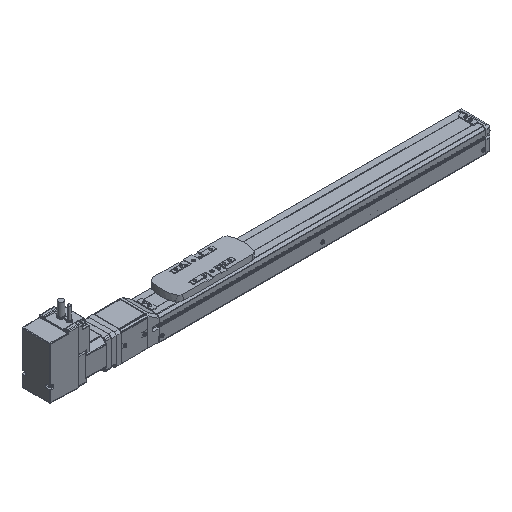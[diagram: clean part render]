
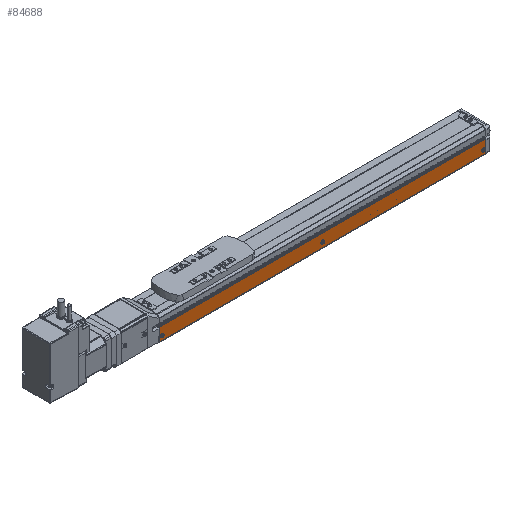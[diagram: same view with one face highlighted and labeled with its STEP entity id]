
A CAD part, isometric view. The second image highlights one B-rep face of the part: STEP entity #84688.
In plain terms, the highlighted planar face has unit normal (0, -1, 0) as drawn and (0, 0, 1) by its records, which use the part's own axes.
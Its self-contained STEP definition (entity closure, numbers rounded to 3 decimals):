
#68324 = PLANE('',#68325);
#68325 = AXIS2_PLACEMENT_3D('',#68326,#68327,#68328);
#68326 = CARTESIAN_POINT('',(-476.5,1.25,21.3));
#68327 = DIRECTION('',(1.,0.,0.));
#68328 = DIRECTION('',(0.,0.,-1.));
#68723 = PLANE('',#68724);
#68724 = AXIS2_PLACEMENT_3D('',#68725,#68726,#68727);
#68725 = CARTESIAN_POINT('',(-9.5,1.25,21.3));
#68726 = DIRECTION('',(1.,0.,0.));
#68727 = DIRECTION('',(0.,0.,-1.));
#84577 = CYLINDRICAL_SURFACE('',#84578,1.);
#84578 = AXIS2_PLACEMENT_3D('',#84579,#84580,#84581);
#84579 = CARTESIAN_POINT('',(-476.5,-20.734,20.5));
#84580 = DIRECTION('',(1.,0.,0.));
#84581 = DIRECTION('',(0.,0.,-1.));
#84615 = VERTEX_POINT('',#84616);
#84616 = CARTESIAN_POINT('',(-9.5,-20.734,21.5));
#84638 = EDGE_CURVE('',#84639,#84615,#84641,.T.);
#84639 = VERTEX_POINT('',#84640);
#84640 = CARTESIAN_POINT('',(-476.5,-20.734,21.5));
#84641 = SURFACE_CURVE('',#84642,(#84646,#84653),.PCURVE_S1.);
#84642 = LINE('',#84643,#84644);
#84643 = CARTESIAN_POINT('',(-476.5,-20.734,21.5));
#84644 = VECTOR('',#84645,1.);
#84645 = DIRECTION('',(1.,0.,0.));
#84646 = PCURVE('',#84577,#84647);
#84647 = DEFINITIONAL_REPRESENTATION('',(#84648),#84652);
#84648 = LINE('',#84649,#84650);
#84649 = CARTESIAN_POINT('',(3.142,0.));
#84650 = VECTOR('',#84651,1.);
#84651 = DIRECTION('',(0.,1.));
#84652 = ( GEOMETRIC_REPRESENTATION_CONTEXT(2) 
PARAMETRIC_REPRESENTATION_CONTEXT() REPRESENTATION_CONTEXT('2D SPACE',''
  ) );
#84653 = PCURVE('',#84654,#84659);
#84654 = PLANE('',#84655);
#84655 = AXIS2_PLACEMENT_3D('',#84656,#84657,#84658);
#84656 = CARTESIAN_POINT('',(-476.5,-2.65,21.5));
#84657 = DIRECTION('',(0.,0.,1.));
#84658 = DIRECTION('',(1.,0.,-0.));
#84659 = DEFINITIONAL_REPRESENTATION('',(#84660),#84664);
#84660 = LINE('',#84661,#84662);
#84661 = CARTESIAN_POINT('',(0.,-18.084));
#84662 = VECTOR('',#84663,1.);
#84663 = DIRECTION('',(1.,0.));
#84664 = ( GEOMETRIC_REPRESENTATION_CONTEXT(2) 
PARAMETRIC_REPRESENTATION_CONTEXT() REPRESENTATION_CONTEXT('2D SPACE',''
  ) );
#84688 = ADVANCED_FACE('',(#84689,#84724,#84755,#84786),#84654,.T.);
#84689 = FACE_BOUND('',#84690,.T.);
#84690 = EDGE_LOOP('',(#84691));
#84691 = ORIENTED_EDGE('',*,*,#84692,.T.);
#84692 = EDGE_CURVE('',#84693,#84693,#84695,.T.);
#84693 = VERTEX_POINT('',#84694);
#84694 = CARTESIAN_POINT('',(-245.25,-13.5,21.5));
#84695 = SURFACE_CURVE('',#84696,(#84701,#84712),.PCURVE_S1.);
#84696 = CIRCLE('',#84697,2.25);
#84697 = AXIS2_PLACEMENT_3D('',#84698,#84699,#84700);
#84698 = CARTESIAN_POINT('',(-243.,-13.5,21.5));
#84699 = DIRECTION('',(0.,0.,-1.));
#84700 = DIRECTION('',(-1.,0.,0.));
#84701 = PCURVE('',#84654,#84702);
#84702 = DEFINITIONAL_REPRESENTATION('',(#84703),#84711);
#84703 = ( BOUNDED_CURVE() B_SPLINE_CURVE(2,(#84704,#84705,#84706,#84707
    ,#84708,#84709,#84710),.UNSPECIFIED.,.T.,.F.) 
B_SPLINE_CURVE_WITH_KNOTS((1,2,2,2,2,1),(-2.094,0.,
    2.094,4.189,6.283,8.378),
.UNSPECIFIED.) CURVE() GEOMETRIC_REPRESENTATION_ITEM() 
RATIONAL_B_SPLINE_CURVE((1.,0.5,1.,0.5,1.,0.5,1.)) REPRESENTATION_ITEM(
  '') );
#84704 = CARTESIAN_POINT('',(231.25,-10.85));
#84705 = CARTESIAN_POINT('',(231.25,-6.953));
#84706 = CARTESIAN_POINT('',(234.625,-8.901));
#84707 = CARTESIAN_POINT('',(238.,-10.85));
#84708 = CARTESIAN_POINT('',(234.625,-12.799));
#84709 = CARTESIAN_POINT('',(231.25,-14.747));
#84710 = CARTESIAN_POINT('',(231.25,-10.85));
#84711 = ( GEOMETRIC_REPRESENTATION_CONTEXT(2) 
PARAMETRIC_REPRESENTATION_CONTEXT() REPRESENTATION_CONTEXT('2D SPACE',''
  ) );
#84712 = PCURVE('',#84713,#84718);
#84713 = CONICAL_SURFACE('',#84714,2.181,0.087);
#84714 = AXIS2_PLACEMENT_3D('',#84715,#84716,#84717);
#84715 = CARTESIAN_POINT('',(-243.,-13.5,22.289));
#84716 = DIRECTION('',(0.,0.,-1.));
#84717 = DIRECTION('',(-1.,0.,0.));
#84718 = DEFINITIONAL_REPRESENTATION('',(#84719),#84723);
#84719 = LINE('',#84720,#84721);
#84720 = CARTESIAN_POINT('',(0.,0.789));
#84721 = VECTOR('',#84722,1.);
#84722 = DIRECTION('',(1.,0.));
#84723 = ( GEOMETRIC_REPRESENTATION_CONTEXT(2) 
PARAMETRIC_REPRESENTATION_CONTEXT() REPRESENTATION_CONTEXT('2D SPACE',''
  ) );
#84724 = FACE_BOUND('',#84725,.T.);
#84725 = EDGE_LOOP('',(#84726));
#84726 = ORIENTED_EDGE('',*,*,#84727,.F.);
#84727 = EDGE_CURVE('',#84728,#84728,#84730,.T.);
#84728 = VERTEX_POINT('',#84729);
#84729 = CARTESIAN_POINT('',(-470.71,-14.5,21.5));
#84730 = SURFACE_CURVE('',#84731,(#84736,#84743),.PCURVE_S1.);
#84731 = CIRCLE('',#84732,2.29);
#84732 = AXIS2_PLACEMENT_3D('',#84733,#84734,#84735);
#84733 = CARTESIAN_POINT('',(-473.,-14.5,21.5));
#84734 = DIRECTION('',(0.,0.,1.));
#84735 = DIRECTION('',(1.,0.,-0.));
#84736 = PCURVE('',#84654,#84737);
#84737 = DEFINITIONAL_REPRESENTATION('',(#84738),#84742);
#84738 = CIRCLE('',#84739,2.29);
#84739 = AXIS2_PLACEMENT_2D('',#84740,#84741);
#84740 = CARTESIAN_POINT('',(3.5,-11.85));
#84741 = DIRECTION('',(1.,0.));
#84742 = ( GEOMETRIC_REPRESENTATION_CONTEXT(2) 
PARAMETRIC_REPRESENTATION_CONTEXT() REPRESENTATION_CONTEXT('2D SPACE',''
  ) );
#84743 = PCURVE('',#84744,#84749);
#84744 = CONICAL_SURFACE('',#84745,2.29,0.087);
#84745 = AXIS2_PLACEMENT_3D('',#84746,#84747,#84748);
#84746 = CARTESIAN_POINT('',(-473.,-14.5,21.5));
#84747 = DIRECTION('',(0.,0.,-1.));
#84748 = DIRECTION('',(-1.,0.,0.));
#84749 = DEFINITIONAL_REPRESENTATION('',(#84750),#84754);
#84750 = LINE('',#84751,#84752);
#84751 = CARTESIAN_POINT('',(9.425,0.));
#84752 = VECTOR('',#84753,1.);
#84753 = DIRECTION('',(-1.,0.));
#84754 = ( GEOMETRIC_REPRESENTATION_CONTEXT(2) 
PARAMETRIC_REPRESENTATION_CONTEXT() REPRESENTATION_CONTEXT('2D SPACE',''
  ) );
#84755 = FACE_BOUND('',#84756,.T.);
#84756 = EDGE_LOOP('',(#84757));
#84757 = ORIENTED_EDGE('',*,*,#84758,.F.);
#84758 = EDGE_CURVE('',#84759,#84759,#84761,.T.);
#84759 = VERTEX_POINT('',#84760);
#84760 = CARTESIAN_POINT('',(-10.71,-14.5,21.5));
#84761 = SURFACE_CURVE('',#84762,(#84767,#84774),.PCURVE_S1.);
#84762 = CIRCLE('',#84763,2.29);
#84763 = AXIS2_PLACEMENT_3D('',#84764,#84765,#84766);
#84764 = CARTESIAN_POINT('',(-13.,-14.5,21.5));
#84765 = DIRECTION('',(0.,0.,1.));
#84766 = DIRECTION('',(1.,0.,-0.));
#84767 = PCURVE('',#84654,#84768);
#84768 = DEFINITIONAL_REPRESENTATION('',(#84769),#84773);
#84769 = CIRCLE('',#84770,2.29);
#84770 = AXIS2_PLACEMENT_2D('',#84771,#84772);
#84771 = CARTESIAN_POINT('',(463.5,-11.85));
#84772 = DIRECTION('',(1.,0.));
#84773 = ( GEOMETRIC_REPRESENTATION_CONTEXT(2) 
PARAMETRIC_REPRESENTATION_CONTEXT() REPRESENTATION_CONTEXT('2D SPACE',''
  ) );
#84774 = PCURVE('',#84775,#84780);
#84775 = CONICAL_SURFACE('',#84776,2.29,0.087);
#84776 = AXIS2_PLACEMENT_3D('',#84777,#84778,#84779);
#84777 = CARTESIAN_POINT('',(-13.,-14.5,21.5));
#84778 = DIRECTION('',(0.,0.,-1.));
#84779 = DIRECTION('',(-1.,0.,0.));
#84780 = DEFINITIONAL_REPRESENTATION('',(#84781),#84785);
#84781 = LINE('',#84782,#84783);
#84782 = CARTESIAN_POINT('',(9.425,0.));
#84783 = VECTOR('',#84784,1.);
#84784 = DIRECTION('',(-1.,0.));
#84785 = ( GEOMETRIC_REPRESENTATION_CONTEXT(2) 
PARAMETRIC_REPRESENTATION_CONTEXT() REPRESENTATION_CONTEXT('2D SPACE',''
  ) );
#84786 = FACE_BOUND('',#84787,.T.);
#84787 = EDGE_LOOP('',(#84788,#84811,#84839,#84860));
#84788 = ORIENTED_EDGE('',*,*,#84789,.F.);
#84789 = EDGE_CURVE('',#84790,#84615,#84792,.T.);
#84790 = VERTEX_POINT('',#84791);
#84791 = CARTESIAN_POINT('',(-9.5,-2.65,21.5));
#84792 = SURFACE_CURVE('',#84793,(#84797,#84804),.PCURVE_S1.);
#84793 = LINE('',#84794,#84795);
#84794 = CARTESIAN_POINT('',(-9.5,-2.65,21.5));
#84795 = VECTOR('',#84796,1.);
#84796 = DIRECTION('',(0.,-1.,0.));
#84797 = PCURVE('',#84654,#84798);
#84798 = DEFINITIONAL_REPRESENTATION('',(#84799),#84803);
#84799 = LINE('',#84800,#84801);
#84800 = CARTESIAN_POINT('',(467.,0.));
#84801 = VECTOR('',#84802,1.);
#84802 = DIRECTION('',(0.,-1.));
#84803 = ( GEOMETRIC_REPRESENTATION_CONTEXT(2) 
PARAMETRIC_REPRESENTATION_CONTEXT() REPRESENTATION_CONTEXT('2D SPACE',''
  ) );
#84804 = PCURVE('',#68723,#84805);
#84805 = DEFINITIONAL_REPRESENTATION('',(#84806),#84810);
#84806 = LINE('',#84807,#84808);
#84807 = CARTESIAN_POINT('',(-0.2,-3.9));
#84808 = VECTOR('',#84809,1.);
#84809 = DIRECTION('',(0.,-1.));
#84810 = ( GEOMETRIC_REPRESENTATION_CONTEXT(2) 
PARAMETRIC_REPRESENTATION_CONTEXT() REPRESENTATION_CONTEXT('2D SPACE',''
  ) );
#84811 = ORIENTED_EDGE('',*,*,#84812,.F.);
#84812 = EDGE_CURVE('',#84813,#84790,#84815,.T.);
#84813 = VERTEX_POINT('',#84814);
#84814 = CARTESIAN_POINT('',(-476.5,-2.65,21.5));
#84815 = SURFACE_CURVE('',#84816,(#84820,#84827),.PCURVE_S1.);
#84816 = LINE('',#84817,#84818);
#84817 = CARTESIAN_POINT('',(-476.5,-2.65,21.5));
#84818 = VECTOR('',#84819,1.);
#84819 = DIRECTION('',(1.,0.,0.));
#84820 = PCURVE('',#84654,#84821);
#84821 = DEFINITIONAL_REPRESENTATION('',(#84822),#84826);
#84822 = LINE('',#84823,#84824);
#84823 = CARTESIAN_POINT('',(0.,0.));
#84824 = VECTOR('',#84825,1.);
#84825 = DIRECTION('',(1.,0.));
#84826 = ( GEOMETRIC_REPRESENTATION_CONTEXT(2) 
PARAMETRIC_REPRESENTATION_CONTEXT() REPRESENTATION_CONTEXT('2D SPACE',''
  ) );
#84827 = PCURVE('',#84828,#84833);
#84828 = CYLINDRICAL_SURFACE('',#84829,0.2);
#84829 = AXIS2_PLACEMENT_3D('',#84830,#84831,#84832);
#84830 = CARTESIAN_POINT('',(-476.5,-2.65,21.3));
#84831 = DIRECTION('',(1.,0.,0.));
#84832 = DIRECTION('',(0.,0.,-1.));
#84833 = DEFINITIONAL_REPRESENTATION('',(#84834),#84838);
#84834 = LINE('',#84835,#84836);
#84835 = CARTESIAN_POINT('',(3.142,0.));
#84836 = VECTOR('',#84837,1.);
#84837 = DIRECTION('',(0.,1.));
#84838 = ( GEOMETRIC_REPRESENTATION_CONTEXT(2) 
PARAMETRIC_REPRESENTATION_CONTEXT() REPRESENTATION_CONTEXT('2D SPACE',''
  ) );
#84839 = ORIENTED_EDGE('',*,*,#84840,.T.);
#84840 = EDGE_CURVE('',#84813,#84639,#84841,.T.);
#84841 = SURFACE_CURVE('',#84842,(#84846,#84853),.PCURVE_S1.);
#84842 = LINE('',#84843,#84844);
#84843 = CARTESIAN_POINT('',(-476.5,-2.65,21.5));
#84844 = VECTOR('',#84845,1.);
#84845 = DIRECTION('',(0.,-1.,0.));
#84846 = PCURVE('',#84654,#84847);
#84847 = DEFINITIONAL_REPRESENTATION('',(#84848),#84852);
#84848 = LINE('',#84849,#84850);
#84849 = CARTESIAN_POINT('',(0.,0.));
#84850 = VECTOR('',#84851,1.);
#84851 = DIRECTION('',(0.,-1.));
#84852 = ( GEOMETRIC_REPRESENTATION_CONTEXT(2) 
PARAMETRIC_REPRESENTATION_CONTEXT() REPRESENTATION_CONTEXT('2D SPACE',''
  ) );
#84853 = PCURVE('',#68324,#84854);
#84854 = DEFINITIONAL_REPRESENTATION('',(#84855),#84859);
#84855 = LINE('',#84856,#84857);
#84856 = CARTESIAN_POINT('',(-0.2,-3.9));
#84857 = VECTOR('',#84858,1.);
#84858 = DIRECTION('',(0.,-1.));
#84859 = ( GEOMETRIC_REPRESENTATION_CONTEXT(2) 
PARAMETRIC_REPRESENTATION_CONTEXT() REPRESENTATION_CONTEXT('2D SPACE',''
  ) );
#84860 = ORIENTED_EDGE('',*,*,#84638,.T.);
